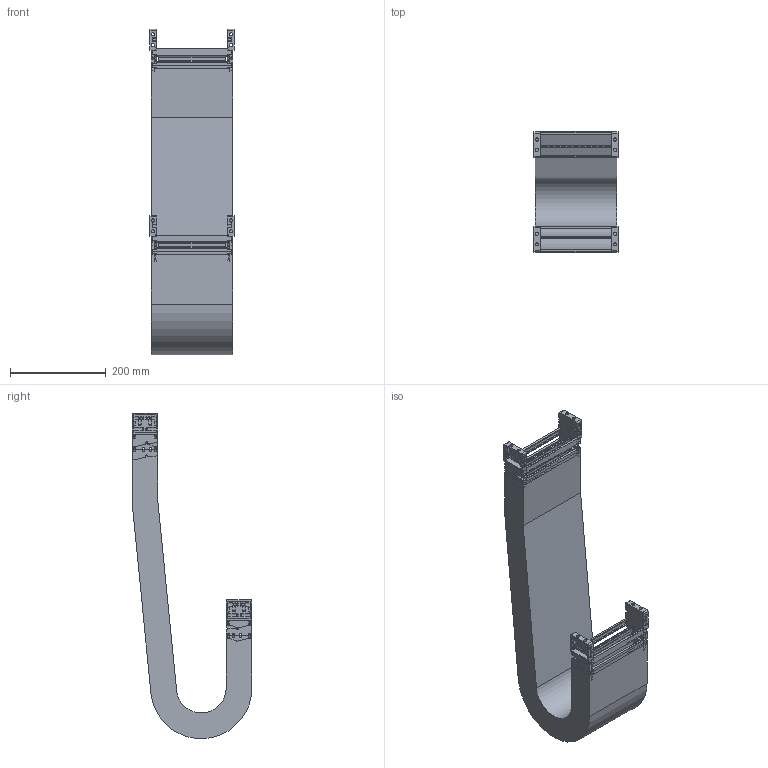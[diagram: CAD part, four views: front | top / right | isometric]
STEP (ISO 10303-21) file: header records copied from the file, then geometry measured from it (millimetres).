
FILE_DESCRIPTION((''),'2;1');
FILE_NAME('KST-40150-075_ASM','2017-12-06T',('KUNI004K'),(''),'PRO/ENGINEER BY PARAMETRIC TECHNOLOGY CORPORATION, 2015200','PRO/ENGINEER BY PARAMETRIC TECHNOLOGY CORPORATION, 2015200','');
FILE_SCHEMA(('AUTOMOTIVE_DESIGN { 1 0 10303 214 1 1 1 1 }'));
Length unit declared in the file: millimetre
Products named in the file (13): 40FBR; 40FBL; 40150C; KST40FB_W150_ASM; KST40075R; KST40075L; 40150H; KST40150-075_1_ASM; KST40150_R75_BODY; 40MBR; 40MBL; KST40MB_W150_ASM; KST-40150-075_ASM
Assembly tree (19 placements, depth 3):
  KST-40150-075_ASM
    KST40FB_W150_ASM
      40FBR
      40FBL
      40150C  x2
    KST40150-075_1_ASM  x2
      KST40075R
      KST40075L
      40150C
      40150H
    KST40150_R75_BODY
    KST40MB_W150_ASM
      40MBR
      40MBL
      40150C  x2
Bounding box: 176 x 251 x 681.42 mm (x, y, z)
Volume: 2934380 mm3; surface area: 1145676.7 mm2
Topology: 21 solids, 21 shells, 3000 faces, 8254 edges, 5324 vertices
Faces by surface type: plane 1598, cylinder 1034, bspline 300, torus 68
Entity records: 70694 total; most frequent: CARTESIAN_POINT 14065, ORIENTED_EDGE 7608, DIRECTION 6920, PRESENTATION_STYLE_ASSIGNMENT 5184, STYLED_ITEM 5184, CURVE_STYLE 3804, EDGE_CURVE 3804, VECTOR 2484
